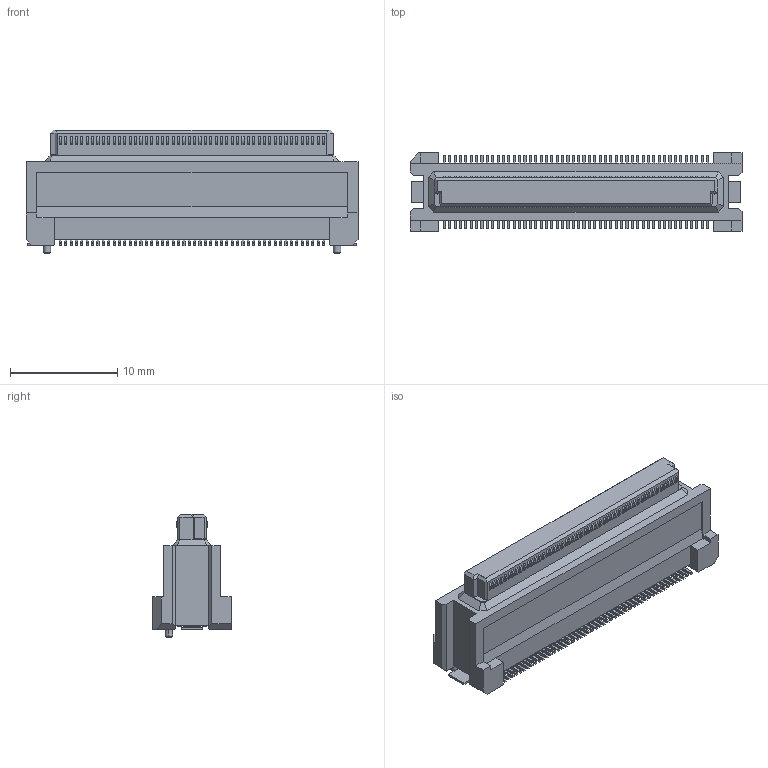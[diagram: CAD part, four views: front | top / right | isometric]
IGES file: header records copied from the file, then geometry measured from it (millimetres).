
Start section: Elysium IGES Interface
Global section: file name: C:\Users\1354\Desktop\DY11-100FS-2.igs; native system: Creo Elements/Direct Modeling 19.0F  14-Feb-2017; preprocessor: Creo Element/Direct IGES_3D V2.2; author: Unknown; organization: Unknown; date: 20171128.102907; units: millimetre
Bounding box: 30.9 x 7.3 x 11.5 mm (x, y, z)
Volume: 1262.6 mm3; surface area: 1283.4 mm2
Topology: 1 solids, 1 shells, 1466 faces, 4033 edges, 2674 vertices
Faces by surface type: bspline 1466
